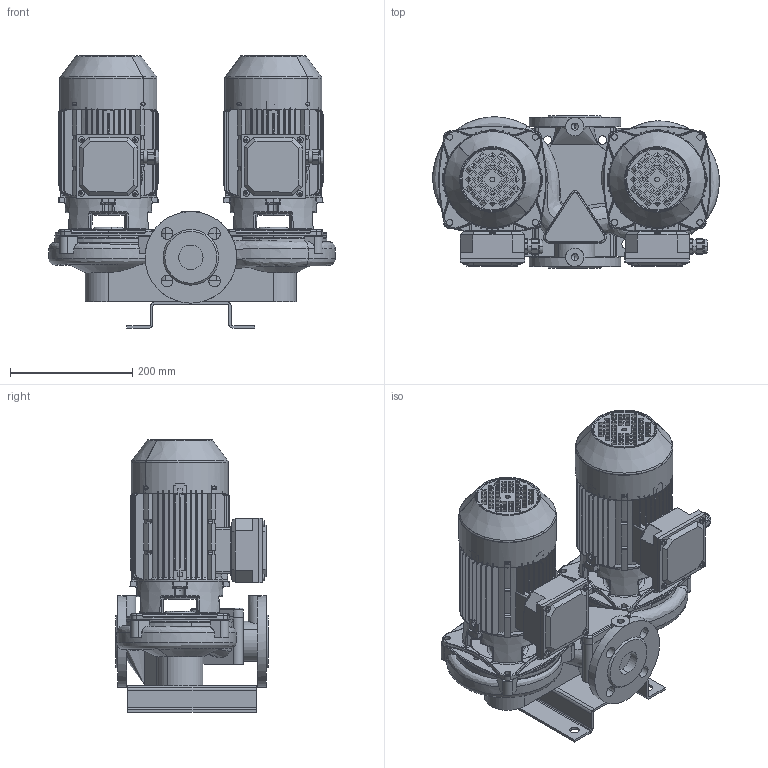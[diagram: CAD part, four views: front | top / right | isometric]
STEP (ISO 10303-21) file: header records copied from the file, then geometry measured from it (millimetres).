
FILE_DESCRIPTION(('STEP AP214'),'1');
FILE_NAME('export.stp','2018-05-30T07:22:39',(' '),(' '),'Spatial InterOp 3D',' ',' ');
FILE_SCHEMA(('AUTOMOTIVE_DESIGN { 1 0 10303 214 1 1 1 1 }'));
Length unit declared in the file: millimetre
Products named in the file (24): W_T40A2110_KP80; V_TLAEAP3233L40A; V_PPT40A; V_JALKA35973; 160029; 160001; V_MKP80-1_N13; 160141; 160137; 160138; 160139; 160140; Koura_Ale_M5; Plug_Blind_M20; Sealing_Plug_M20; DIN_7985-M5X8; DIN_7985-M5X12; 480032; 480031___; 160133
Assembly tree (42 placements, depth 4):
  W_T40A2110_KP80
    V_TLAEAP3233L40A  x2
    V_PPT40A
    V_JALKA35973
    V_MKP80-1_N13
      160029
        160001
      160141
        160137
        160138
        160139
        160140
        Koura_Ale_M5
        Plug_Blind_M20
        Sealing_Plug_M20
        DIN_7985-M5X8
        DIN_7985-M5X12  x4
      480032
        480031___
      160133
    V_MKP80-1_N13
      160029
        160001
      160141
        160137
        160138
        160139
        160140
        Koura_Ale_M5
        Plug_Blind_M20
        Sealing_Plug_M20
        DIN_7985-M5X8
        DIN_7985-M5X12  x4
      480032
        480031___
      160133
Bounding box: 469.46 x 250 x 446 mm (x, y, z)
Volume: 9817665.3 mm3; surface area: 3071568.6 mm2
Topology: 34 solids, 34 shells, 3882 faces, 10531 edges, 6729 vertices
Faces by surface type: plane 1758, cylinder 1075, torus 432, bspline 325, cone 268, sphere 24
Entity records: 85690 total; most frequent: CARTESIAN_POINT 30417, ORIENTED_EDGE 11022, DIRECTION 10095, EDGE_CURVE 5511, AXIS2_PLACEMENT_3D 3790, VERTEX_POINT 3550, LINE 2515, VECTOR 2515
